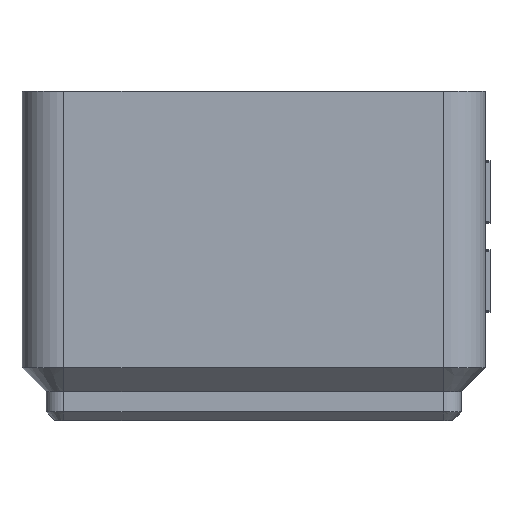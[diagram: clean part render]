
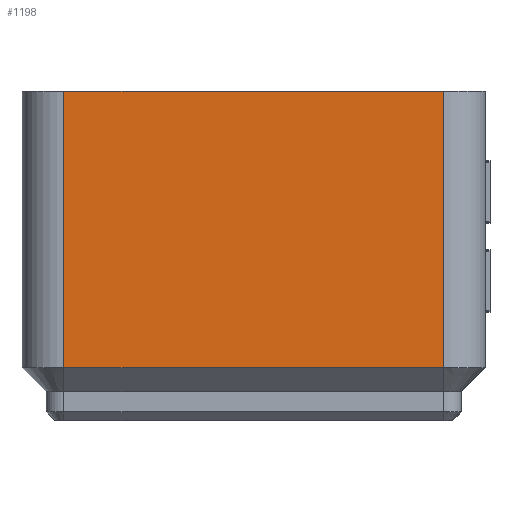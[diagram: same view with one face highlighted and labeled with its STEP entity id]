
A CAD part, left-side view. The second image highlights one B-rep face of the part: STEP entity #1198.
In plain terms, the highlighted planar face has unit normal (-1, 0, 0).
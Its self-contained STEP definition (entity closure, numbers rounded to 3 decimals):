
#416 = PLANE('',#417);
#417 = AXIS2_PLACEMENT_3D('',#418,#419,#420);
#418 = CARTESIAN_POINT('',(-20.75,0.,4.75));
#419 = DIRECTION('',(-0.707,0.,-0.707));
#420 = DIRECTION('',(0.,-1.,-0.));
#793 = VERTEX_POINT('',#794);
#794 = CARTESIAN_POINT('',(-20.75,-17.,4.75));
#812 = EDGE_CURVE('',#793,#813,#815,.T.);
#813 = VERTEX_POINT('',#814);
#814 = CARTESIAN_POINT('',(-20.75,17.,4.75));
#815 = SURFACE_CURVE('',#816,(#820,#827),.PCURVE_S1.);
#816 = LINE('',#817,#818);
#817 = CARTESIAN_POINT('',(-20.75,0.,4.75));
#818 = VECTOR('',#819,1.);
#819 = DIRECTION('',(0.,1.,0.));
#820 = PCURVE('',#416,#821);
#821 = DEFINITIONAL_REPRESENTATION('',(#822),#826);
#822 = LINE('',#823,#824);
#823 = CARTESIAN_POINT('',(0.,0.));
#824 = VECTOR('',#825,1.);
#825 = DIRECTION('',(-1.,0.));
#826 = ( GEOMETRIC_REPRESENTATION_CONTEXT(2) 
PARAMETRIC_REPRESENTATION_CONTEXT() REPRESENTATION_CONTEXT('2D SPACE',''
  ) );
#827 = PCURVE('',#828,#833);
#828 = PLANE('',#829);
#829 = AXIS2_PLACEMENT_3D('',#830,#831,#832);
#830 = CARTESIAN_POINT('',(-20.75,-17.,4.75));
#831 = DIRECTION('',(-1.,0.,0.));
#832 = DIRECTION('',(0.,1.,0.));
#833 = DEFINITIONAL_REPRESENTATION('',(#834),#838);
#834 = LINE('',#835,#836);
#835 = CARTESIAN_POINT('',(17.,0.));
#836 = VECTOR('',#837,1.);
#837 = DIRECTION('',(1.,0.));
#838 = ( GEOMETRIC_REPRESENTATION_CONTEXT(2) 
PARAMETRIC_REPRESENTATION_CONTEXT() REPRESENTATION_CONTEXT('2D SPACE',''
  ) );
#1187 = CYLINDRICAL_SURFACE('',#1188,3.75);
#1188 = AXIS2_PLACEMENT_3D('',#1189,#1190,#1191);
#1189 = CARTESIAN_POINT('',(-17.,-17.,4.75));
#1190 = DIRECTION('',(0.,0.,-1.));
#1191 = DIRECTION('',(-1.,0.,0.));
#1198 = ADVANCED_FACE('',(#1199),#828,.T.);
#1199 = FACE_BOUND('',#1200,.T.);
#1200 = EDGE_LOOP('',(#1201,#1224,#1252,#1278));
#1201 = ORIENTED_EDGE('',*,*,#1202,.T.);
#1202 = EDGE_CURVE('',#793,#1203,#1205,.T.);
#1203 = VERTEX_POINT('',#1204);
#1204 = CARTESIAN_POINT('',(-20.75,-17.,29.5));
#1205 = SURFACE_CURVE('',#1206,(#1210,#1217),.PCURVE_S1.);
#1206 = LINE('',#1207,#1208);
#1207 = CARTESIAN_POINT('',(-20.75,-17.,4.75));
#1208 = VECTOR('',#1209,1.);
#1209 = DIRECTION('',(0.,0.,1.));
#1210 = PCURVE('',#828,#1211);
#1211 = DEFINITIONAL_REPRESENTATION('',(#1212),#1216);
#1212 = LINE('',#1213,#1214);
#1213 = CARTESIAN_POINT('',(0.,0.));
#1214 = VECTOR('',#1215,1.);
#1215 = DIRECTION('',(0.,-1.));
#1216 = ( GEOMETRIC_REPRESENTATION_CONTEXT(2) 
PARAMETRIC_REPRESENTATION_CONTEXT() REPRESENTATION_CONTEXT('2D SPACE',''
  ) );
#1217 = PCURVE('',#1187,#1218);
#1218 = DEFINITIONAL_REPRESENTATION('',(#1219),#1223);
#1219 = LINE('',#1220,#1221);
#1220 = CARTESIAN_POINT('',(6.283,0.));
#1221 = VECTOR('',#1222,1.);
#1222 = DIRECTION('',(0.,-1.));
#1223 = ( GEOMETRIC_REPRESENTATION_CONTEXT(2) 
PARAMETRIC_REPRESENTATION_CONTEXT() REPRESENTATION_CONTEXT('2D SPACE',''
  ) );
#1224 = ORIENTED_EDGE('',*,*,#1225,.T.);
#1225 = EDGE_CURVE('',#1203,#1226,#1228,.T.);
#1226 = VERTEX_POINT('',#1227);
#1227 = CARTESIAN_POINT('',(-20.75,17.,29.5));
#1228 = SURFACE_CURVE('',#1229,(#1233,#1240),.PCURVE_S1.);
#1229 = LINE('',#1230,#1231);
#1230 = CARTESIAN_POINT('',(-20.75,0.,29.5));
#1231 = VECTOR('',#1232,1.);
#1232 = DIRECTION('',(0.,1.,0.));
#1233 = PCURVE('',#828,#1234);
#1234 = DEFINITIONAL_REPRESENTATION('',(#1235),#1239);
#1235 = LINE('',#1236,#1237);
#1236 = CARTESIAN_POINT('',(17.,-24.75));
#1237 = VECTOR('',#1238,1.);
#1238 = DIRECTION('',(1.,0.));
#1239 = ( GEOMETRIC_REPRESENTATION_CONTEXT(2) 
PARAMETRIC_REPRESENTATION_CONTEXT() REPRESENTATION_CONTEXT('2D SPACE',''
  ) );
#1240 = PCURVE('',#1241,#1246);
#1241 = PLANE('',#1242);
#1242 = AXIS2_PLACEMENT_3D('',#1243,#1244,#1245);
#1243 = CARTESIAN_POINT('',(0.,0.,29.5)
  );
#1244 = DIRECTION('',(0.,0.,1.));
#1245 = DIRECTION('',(1.,0.,0.));
#1246 = DEFINITIONAL_REPRESENTATION('',(#1247),#1251);
#1247 = LINE('',#1248,#1249);
#1248 = CARTESIAN_POINT('',(-20.75,0.));
#1249 = VECTOR('',#1250,1.);
#1250 = DIRECTION('',(0.,1.));
#1251 = ( GEOMETRIC_REPRESENTATION_CONTEXT(2) 
PARAMETRIC_REPRESENTATION_CONTEXT() REPRESENTATION_CONTEXT('2D SPACE',''
  ) );
#1252 = ORIENTED_EDGE('',*,*,#1253,.F.);
#1253 = EDGE_CURVE('',#813,#1226,#1254,.T.);
#1254 = SURFACE_CURVE('',#1255,(#1259,#1266),.PCURVE_S1.);
#1255 = LINE('',#1256,#1257);
#1256 = CARTESIAN_POINT('',(-20.75,17.,4.75));
#1257 = VECTOR('',#1258,1.);
#1258 = DIRECTION('',(0.,0.,1.));
#1259 = PCURVE('',#828,#1260);
#1260 = DEFINITIONAL_REPRESENTATION('',(#1261),#1265);
#1261 = LINE('',#1262,#1263);
#1262 = CARTESIAN_POINT('',(34.,0.));
#1263 = VECTOR('',#1264,1.);
#1264 = DIRECTION('',(0.,-1.));
#1265 = ( GEOMETRIC_REPRESENTATION_CONTEXT(2) 
PARAMETRIC_REPRESENTATION_CONTEXT() REPRESENTATION_CONTEXT('2D SPACE',''
  ) );
#1266 = PCURVE('',#1267,#1272);
#1267 = CYLINDRICAL_SURFACE('',#1268,3.75);
#1268 = AXIS2_PLACEMENT_3D('',#1269,#1270,#1271);
#1269 = CARTESIAN_POINT('',(-17.,17.,4.75));
#1270 = DIRECTION('',(0.,0.,-1.));
#1271 = DIRECTION('',(-1.,0.,0.));
#1272 = DEFINITIONAL_REPRESENTATION('',(#1273),#1277);
#1273 = LINE('',#1274,#1275);
#1274 = CARTESIAN_POINT('',(0.,0.));
#1275 = VECTOR('',#1276,1.);
#1276 = DIRECTION('',(0.,-1.));
#1277 = ( GEOMETRIC_REPRESENTATION_CONTEXT(2) 
PARAMETRIC_REPRESENTATION_CONTEXT() REPRESENTATION_CONTEXT('2D SPACE',''
  ) );
#1278 = ORIENTED_EDGE('',*,*,#812,.F.);
